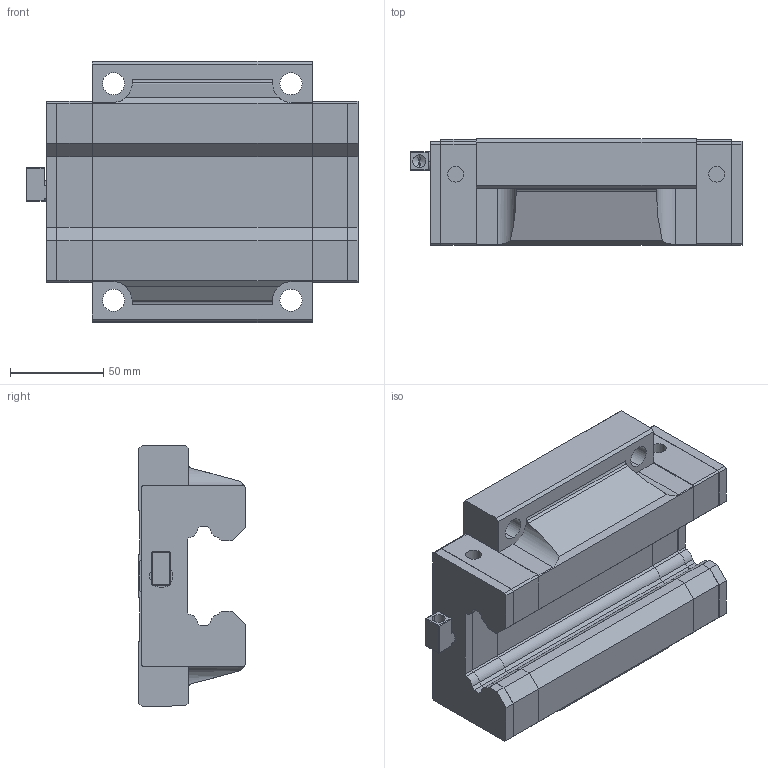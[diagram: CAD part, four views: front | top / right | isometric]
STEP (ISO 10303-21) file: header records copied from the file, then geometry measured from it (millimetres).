
FILE_DESCRIPTION (( 'STEP AP203' ), '1' );
FILE_NAME ('SGW55CA.STEP', '2025-06-27T06:28:26', ( 'Owner' ), ( 'Organization' ), 'SwSTEP 2.0', 'SolidWorks 2020', '' );
FILE_SCHEMA (( 'CONFIG_CONTROL_DESIGN' ));
Length unit declared in the file: millimetre
Products named in the file (1): SGW55CA
Bounding box: 177.7 x 57 x 140 mm (x, y, z)
Volume: 826875.3 mm3; surface area: 121064.7 mm2
Topology: 7 solids, 7 shells, 376 faces, 973 edges, 625 vertices
Faces by surface type: plane 269, cylinder 94, cone 12, torus 1
Entity records: 11470 total; most frequent: CARTESIAN_POINT 2090, ORIENTED_EDGE 1942, DIRECTION 1898, EDGE_CURVE 971, VECTOR 754, LINE 754, VERTEX_POINT 625, AXIS2_PLACEMENT_3D 572
